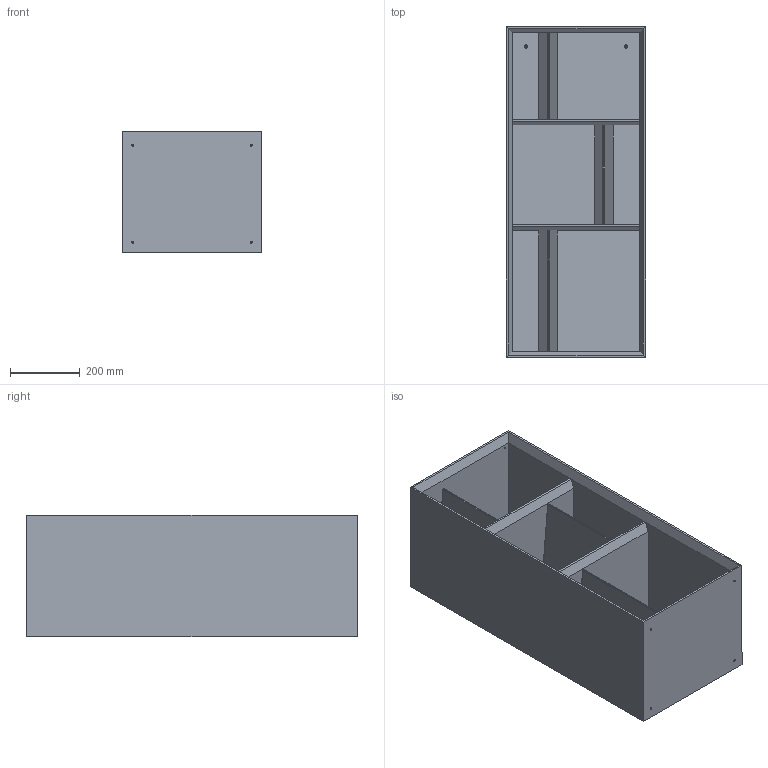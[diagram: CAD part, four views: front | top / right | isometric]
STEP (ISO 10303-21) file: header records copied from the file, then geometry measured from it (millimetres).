
FILE_DESCRIPTION (( 'STEP AP203' ), '1' );
FILE_NAME ('BL20S_Bendy B_40x35x95h.STEP', '2024-08-06T08:25:52', ( '' ), ( '' ), 'SwSTEP 2.0', 'SolidWorks 2022', '' );
FILE_SCHEMA (( 'CONFIG_CONTROL_DESIGN' ));
Length unit declared in the file: millimetre
Products named in the file (5): BED000001-00-TRIANGOLO DIVISORIO_H.292; BED000001-00-TRIANGOLO DIVISORIO_H.256; BL20S_Bendy B_40x35x95h; BEx00000-01-BENDY Struttura tutte le dimensioni_bendy B 40x95cm<A macchina>; BED000001-00-TRIANGOLO DIVISORIO_H.356
Assembly tree (4 placements, depth 2):
  BL20S_Bendy B_40x35x95h
    BEx00000-01-BENDY Struttura tutte le dimensioni_bendy B 40x95cm<A macchina>
    BED000001-00-TRIANGOLO DIVISORIO_H.356
    BED000001-00-TRIANGOLO DIVISORIO_H.292
    BED000001-00-TRIANGOLO DIVISORIO_H.256
Bounding box: 400 x 950 x 350 mm (x, y, z)
Volume: 23260623.2 mm3; surface area: 4215593.9 mm2
Topology: 10 solids, 10 shells, 214 faces, 512 edges, 314 vertices
Faces by surface type: plane 134, cylinder 64, cone 16
Entity records: 6575 total; most frequent: DIRECTION 1074, CARTESIAN_POINT 1035, ORIENTED_EDGE 1000, EDGE_CURVE 500, LINE 368, VECTOR 368, AXIS2_PLACEMENT_3D 353, VERTEX_POINT 314
